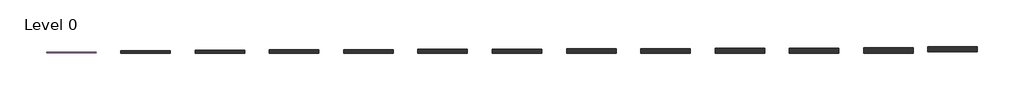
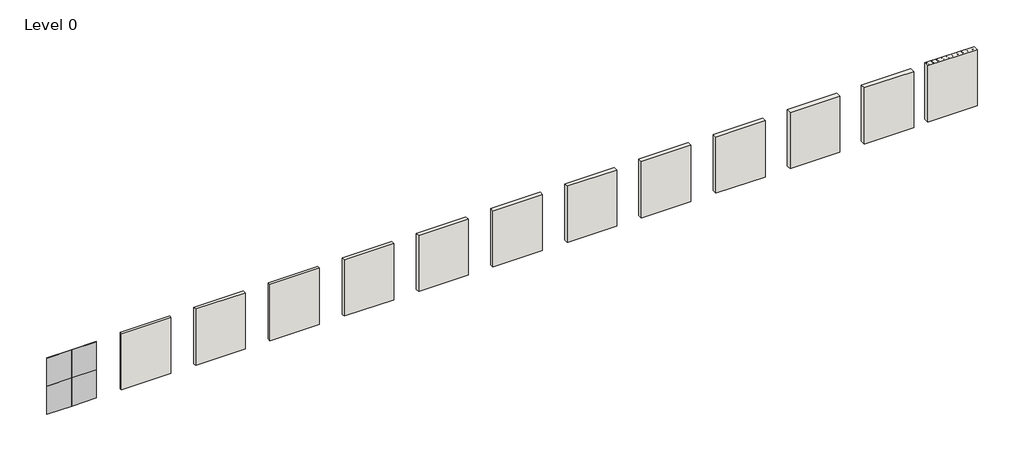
# One storey, incomplete: 12 walls, 4 plates, 1 fastener.
"""IFC4 building model written with IfcOpenShell, lengths in millimetres."""

from ifc_helpers import new_model, si_unit, origin, origin_with_axes, place, context, project, spatial, polyline, outline, extrude, transform, mapped, element, save
from components import metal_stud_substrate_e28d9b51, system_panel_glazed_ae204111

model = new_model("IFC4")

# Units and contexts
model_context = context("Model", 3, world=origin())
ifc_project = project(units=[si_unit("LENGTHUNIT", "METRE", prefix="MILLI")], contexts=[model_context])

# Site, building, storey
site = spatial("IfcSite", under=ifc_project)
building = spatial("IfcBuilding", under=site)
storey = spatial("IfcBuildingStorey", under=building, Name="Level 0", Elevation=0.0)

# Fastener
placement = place(None, origin())
metal_stud_substrate_shape = metal_stud_substrate_e28d9b51(model_context)
element("IfcFastener", 1, ObjectType="Structural-Supporting-Components_Advanced-Architectural-Products_Metal-Stud-Substrate : Metal Stud Substrate", at=placement, inside=storey, context=model_context, shape_type="MappedRepresentation", body=[
    mapped(metal_stud_substrate_shape, transform((28077.7311154, 7505.8430349, 0.0), x_axis=(1.0, 0.0, 0.0), y_axis=(0.0, 1.0, 0.0), z_axis=(0.0, 0.0, 1.0))),
])

# Plates
system_panel_glazed_shape = system_panel_glazed_ae204111(model_context)
element("IfcPlate", 2, ObjectType="System Panel : Glazed", at=placement, inside=storey, context=model_context, shape_type="MappedRepresentation", body=[
    mapped(system_panel_glazed_shape, transform((-16494.2493421, 7259.0836599, 0.0), x_axis=(1.0, 0.0, 0.0), y_axis=(0.0, 1.0, 0.0), z_axis=(0.0, 0.0, 1.0))),
])
element("IfcPlate", 3, ObjectType="System Panel : Glazed", at=placement, inside=storey, context=model_context, shape_type="MappedRepresentation", body=[
    mapped(system_panel_glazed_shape, transform((-15224.2493421, 7259.0836599, 0.0), x_axis=(1.0, 0.0, 0.0), y_axis=(0.0, 1.0, 0.0), z_axis=(0.0, 0.0, 1.0))),
])
element("IfcPlate", 4, ObjectType="System Panel : Glazed", at=placement, inside=storey, context=model_context, shape_type="MappedRepresentation", body=[
    mapped(system_panel_glazed_shape, transform((-16494.2493421, 7259.0836599, 1524.0), x_axis=(1.0, 0.0, 0.0), y_axis=(0.0, 1.0, 0.0), z_axis=(0.0, 0.0, 1.0))),
])
element("IfcPlate", 5, ObjectType="System Panel : Glazed", at=placement, inside=storey, context=model_context, shape_type="MappedRepresentation", body=[
    mapped(system_panel_glazed_shape, transform((-15224.2493421, 7259.0836599, 1524.0), x_axis=(1.0, 0.0, 0.0), y_axis=(0.0, 1.0, 0.0), z_axis=(0.0, 0.0, 1.0))),
])

# Walls
element("IfcWall", 6, ObjectType="AAP Basic Wall-Ext", at=placement, inside=storey, context=model_context, shape_type="SweptSolid", body=[
    extrude(outline(polyline([(-10779.3679784, 7196.0836599), (-13319.3679784, 7196.0836599), (-13319.3679784, 7308.5836599), (-10779.3679784, 7308.5836599), (-10779.3679784, 7196.0836599)])), origin_with_axes(), (0.0, 0.0, 1.0), 3048.0),
])
element("IfcWall", 7, ObjectType="AAP Wall-Ext_1.5\" Fiberglass Batt", at=placement, inside=storey, context=model_context, shape_type="SweptSolid", body=[
    extrude(outline(polyline([(-6969.3679784, 7196.0836599), (-9509.3679784, 7196.0836599), (-9509.3679784, 7346.6836599), (-6969.3679784, 7346.6836599), (-6969.3679784, 7196.0836599)])), origin_with_axes(), (0.0, 0.0, 1.0), 3048.0),
])
element("IfcWall", 8, ObjectType="AAP Wall-Ext_2.0\" Fiberglass Batt", at=placement, inside=storey, context=model_context, shape_type="SweptSolid", body=[
    extrude(outline(polyline([(-3159.3679784, 7196.0836599), (-5699.3679784, 7196.0836599), (-5699.3679784, 7359.3836599), (-3159.3679784, 7359.3836599), (-3159.3679784, 7196.0836599)])), origin_with_axes(), (0.0, 0.0, 1.0), 3048.0),
])
element("IfcWall", 9, ObjectType="AAP Wall-Ext_2.0\" Fiberglass Batt, Air", at=placement, inside=storey, context=model_context, shape_type="SweptSolid", body=[
    extrude(outline(polyline([(30617.7311154, 7264.7430349), (28077.7311154, 7264.7430349), (28077.7311154, 7531.2430349), (30617.7311154, 7531.2430349), (30617.7311154, 7264.7430349)])), origin_with_axes(), (0.0, 0.0, 1.0), 3048.0),
])
element("IfcWall", 10, ObjectType="AAP Wall-Ext_2.5\" Fiberglass Batt", at=placement, inside=storey, context=model_context, shape_type="SweptSolid", body=[
    extrude(outline(polyline([(650.6320216, 7196.0836599), (-1889.3679784, 7196.0836599), (-1889.3679784, 7372.0836599), (650.6320216, 7372.0836599), (650.6320216, 7196.0836599)])), origin_with_axes(), (0.0, 0.0, 1.0), 3048.0),
])
element("IfcWall", 11, ObjectType="AAP Wall-Ext_3.0\" Fiberglass Batt", at=placement, inside=storey, context=model_context, shape_type="SweptSolid", body=[
    extrude(outline(polyline([(4460.6320216, 7196.0836599), (1920.6320216, 7196.0836599), (1920.6320216, 7384.7836599), (4460.6320216, 7384.7836599), (4460.6320216, 7196.0836599)])), origin_with_axes(), (0.0, 0.0, 1.0), 3048.0),
])
element("IfcWall", 12, ObjectType="AAP Wall-Ext_3.5\" Fiberglass Batt", at=placement, inside=storey, context=model_context, shape_type="SweptSolid", body=[
    extrude(outline(polyline([(8270.6320216, 7196.0836599), (5730.6320216, 7196.0836599), (5730.6320216, 7397.4836599), (8270.6320216, 7397.4836599), (8270.6320216, 7196.0836599)])), origin_with_axes(), (0.0, 0.0, 1.0), 3048.0),
])
element("IfcWall", 13, ObjectType="AAP Wall-Ext_4.0\" Fiberglass Batt", at=placement, inside=storey, context=model_context, shape_type="SweptSolid", body=[
    extrude(outline(polyline([(12080.6320216, 7196.0836599), (9540.6320216, 7196.0836599), (9540.6320216, 7410.1836599), (12080.6320216, 7410.1836599), (12080.6320216, 7196.0836599)])), origin_with_axes(), (0.0, 0.0, 1.0), 3048.0),
])
element("IfcWall", 14, ObjectType="AAP Wall-Ext_4.5\" Fiberglass Batt", at=placement, inside=storey, context=model_context, shape_type="SweptSolid", body=[
    extrude(outline(polyline([(15890.6320216, 7196.0836599), (13350.6320216, 7196.0836599), (13350.6320216, 7422.8836599), (15890.6320216, 7422.8836599), (15890.6320216, 7196.0836599)])), origin_with_axes(), (0.0, 0.0, 1.0), 3048.0),
])
element("IfcWall", 15, ObjectType="AAP Wall-Ext_5.0\" Fiberglass Batt", at=placement, inside=storey, context=model_context, shape_type="SweptSolid", body=[
    extrude(outline(polyline([(19700.6320216, 7196.0836599), (17160.6320216, 7196.0836599), (17160.6320216, 7435.5836599), (19700.6320216, 7435.5836599), (19700.6320216, 7196.0836599)])), origin_with_axes(), (0.0, 0.0, 1.0), 3048.0),
])
element("IfcWall", 16, ObjectType="AAP Wall-Ext_5.5\" Fiberglass Batt 2", at=placement, inside=storey, context=model_context, shape_type="SweptSolid", body=[
    extrude(outline(polyline([(23510.6320216, 7196.0836599), (20970.6320216, 7196.0836599), (20970.6320216, 7448.2836599), (23510.6320216, 7448.2836599), (23510.6320216, 7196.0836599)])), origin_with_axes(), (0.0, 0.0, 1.0), 3048.0),
])
element("IfcWall", 17, ObjectType="AAP Wall-Ext_6.0\" Fiberglass Batt", at=placement, inside=storey, context=model_context, shape_type="SweptSolid", body=[
    extrude(outline(polyline([(27320.6320216, 7196.0836599), (24780.6320216, 7196.0836599), (24780.6320216, 7460.9836599), (27320.6320216, 7460.9836599), (27320.6320216, 7196.0836599)])), origin_with_axes(), (0.0, 0.0, 1.0), 3048.0),
])

save(model, "model.ifc")
